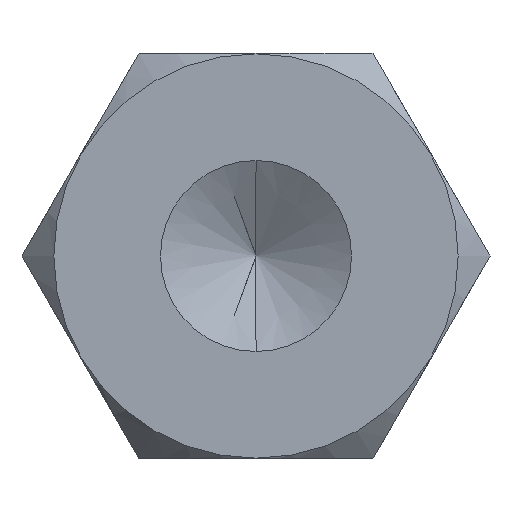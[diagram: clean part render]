
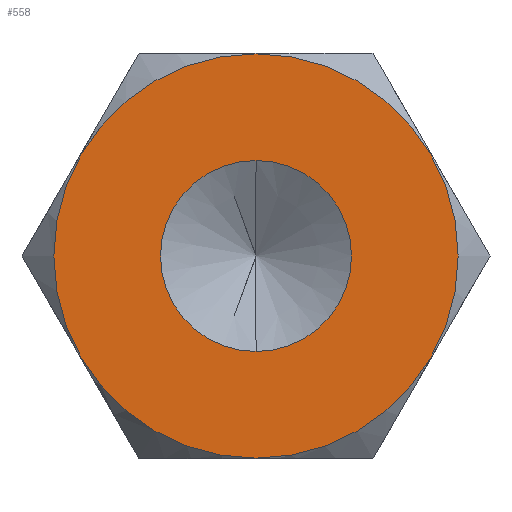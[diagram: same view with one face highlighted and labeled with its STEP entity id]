
A CAD part, front view. The second image highlights one B-rep face of the part: STEP entity #558.
In plain terms, the highlighted planar face has unit normal (0, -1, 0).
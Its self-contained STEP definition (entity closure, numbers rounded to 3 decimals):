
#42 = DIRECTION ( 'NONE',  ( 0., -1., 0. ) ) ;
#69 = VERTEX_POINT ( 'NONE', #665 ) ;
#75 = EDGE_CURVE ( 'NONE', #228, #628, #759, .T. ) ;
#92 = CARTESIAN_POINT ( 'NONE',  ( 0., 0., 0. ) ) ;
#140 = DIRECTION ( 'NONE',  ( 0., -1., 0. ) ) ;
#222 = CARTESIAN_POINT ( 'NONE',  ( 0., 0., 0. ) ) ;
#226 = DIRECTION ( 'NONE',  ( 0., -1., 0. ) ) ;
#228 = VERTEX_POINT ( 'NONE', #744 ) ;
#240 = AXIS2_PLACEMENT_3D ( 'NONE', #519, #703, #257 ) ;
#257 = DIRECTION ( 'NONE',  ( 0., 0., -1. ) ) ;
#261 = CARTESIAN_POINT ( 'NONE',  ( 0., 0., 0. ) ) ;
#285 = FACE_BOUND ( 'NONE', #491, .T. ) ;
#328 = EDGE_CURVE ( 'NONE', #628, #228, #689, .T. ) ;
#332 = AXIS2_PLACEMENT_3D ( 'NONE', #261, #140, #755 ) ;
#337 = DIRECTION ( 'NONE',  ( 0., 1., 0. ) ) ;
#344 = EDGE_CURVE ( 'NONE', #579, #69, #473, .T. ) ;
#365 = CARTESIAN_POINT ( 'NONE',  ( 0., 0., 3.491 ) ) ;
#462 = EDGE_LOOP ( 'NONE', ( #740, #683 ) ) ;
#473 = CIRCLE ( 'NONE', #332, 3.491 ) ;
#475 = CARTESIAN_POINT ( 'NONE',  ( 0., 0., 0. ) ) ;
#487 = EDGE_CURVE ( 'NONE', #69, #579, #736, .T. ) ;
#491 = EDGE_LOOP ( 'NONE', ( #509, #621 ) ) ;
#509 = ORIENTED_EDGE ( 'NONE', *, *, #75, .F. ) ;
#519 = CARTESIAN_POINT ( 'NONE',  ( 0., 0., 0. ) ) ;
#543 = AXIS2_PLACEMENT_3D ( 'NONE', #475, #226, #790 ) ;
#558 = ADVANCED_FACE ( 'NONE', ( #285, #664 ), #650, .F. ) ;
#579 = VERTEX_POINT ( 'NONE', #365 ) ;
#587 = DIRECTION ( 'NONE',  ( 0., 0., 1. ) ) ;
#601 = DIRECTION ( 'NONE',  ( 0., 0., -1. ) ) ;
#606 = AXIS2_PLACEMENT_3D ( 'NONE', #222, #42, #601 ) ;
#608 = AXIS2_PLACEMENT_3D ( 'NONE', #92, #337, #587 ) ;
#621 = ORIENTED_EDGE ( 'NONE', *, *, #328, .F. ) ;
#628 = VERTEX_POINT ( 'NONE', #668 ) ;
#650 = PLANE ( 'NONE',  #608 ) ;
#664 = FACE_OUTER_BOUND ( 'NONE', #462, .T. ) ;
#665 = CARTESIAN_POINT ( 'NONE',  ( 0., 0., -3.491 ) ) ;
#668 = CARTESIAN_POINT ( 'NONE',  ( 0., 0., 1.65 ) ) ;
#683 = ORIENTED_EDGE ( 'NONE', *, *, #487, .T. ) ;
#689 = CIRCLE ( 'NONE', #240, 1.65 ) ;
#703 = DIRECTION ( 'NONE',  ( 0., -1., 0. ) ) ;
#736 = CIRCLE ( 'NONE', #543, 3.491 ) ;
#740 = ORIENTED_EDGE ( 'NONE', *, *, #344, .T. ) ;
#744 = CARTESIAN_POINT ( 'NONE',  ( 0., 0., -1.65 ) ) ;
#755 = DIRECTION ( 'NONE',  ( 0., 0., -1. ) ) ;
#759 = CIRCLE ( 'NONE', #606, 1.65 ) ;
#790 = DIRECTION ( 'NONE',  ( 0., 0., -1. ) ) ;
